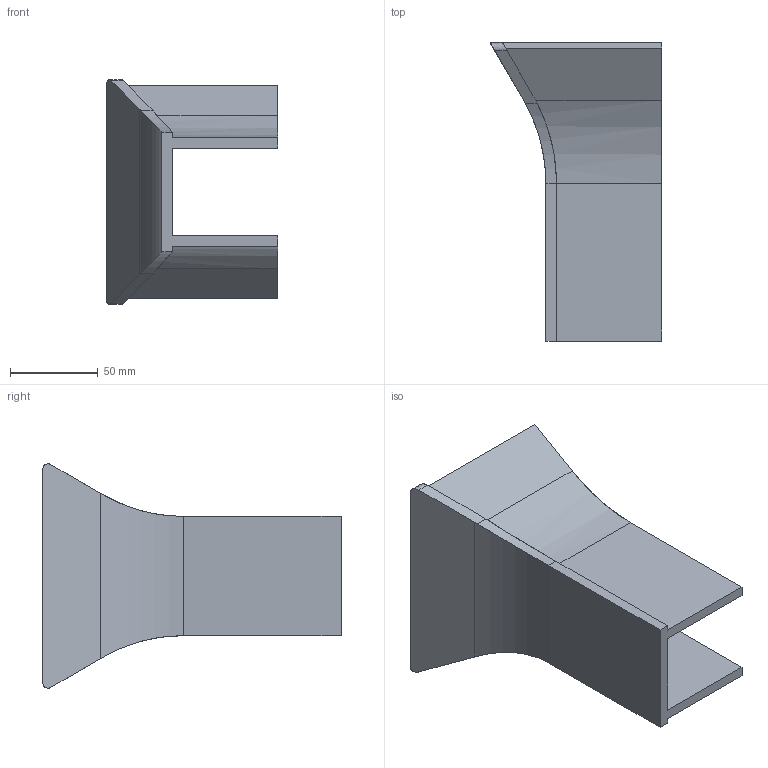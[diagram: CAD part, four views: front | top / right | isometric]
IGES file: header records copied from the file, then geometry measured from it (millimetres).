
Global section: file name: E:\UnigraphicsGraphicData\MISUMI_PRESS-PARTS\IGES\3d_cilg-90-60-50_00262_r00.igs; native system: NX V5.0; preprocessor: UGS NX IGES V5.0; author: MISUMI; date: 20110105.160247; units: millimetre
Bounding box: 97.65 x 170 x 127.89 mm (x, y, z)
Surface area: 79469.5 mm2 (no closed solid volume)
Topology: 0 solids, 0 shells, 38 faces, 214 edges, 214 vertices
Faces by surface type: bspline 38
